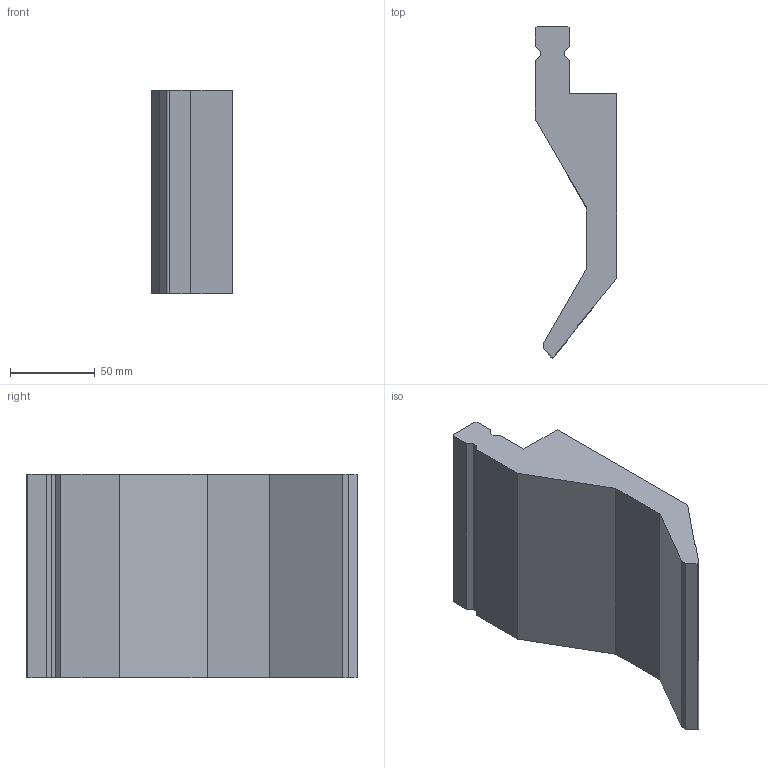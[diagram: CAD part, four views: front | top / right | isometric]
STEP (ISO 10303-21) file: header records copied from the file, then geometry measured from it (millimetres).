
FILE_DESCRIPTION (( 'STEP AP214' ), '1' );
FILE_NAME ('D10W_78.STEP', '2018-04-17T17:06:25', ( '' ), ( '' ), 'SwSTEP 2.0', 'SolidWorks 2017', '' );
FILE_SCHEMA (( 'AUTOMOTIVE_DESIGN' ));
Length unit declared in the file: millimetre
Products named in the file (1): D10W_78
Bounding box: 48 x 196 x 120 mm (x, y, z)
Volume: 560554 mm3; surface area: 66283.8 mm2
Topology: 1 solids, 1 shells, 26 faces, 72 edges, 48 vertices
Faces by surface type: plane 25, cylinder 1
Entity records: 852 total; most frequent: CARTESIAN_POINT 147, ORIENTED_EDGE 144, DIRECTION 128, EDGE_CURVE 72, LINE 70, VECTOR 70, VERTEX_POINT 48, AXIS2_PLACEMENT_3D 29
